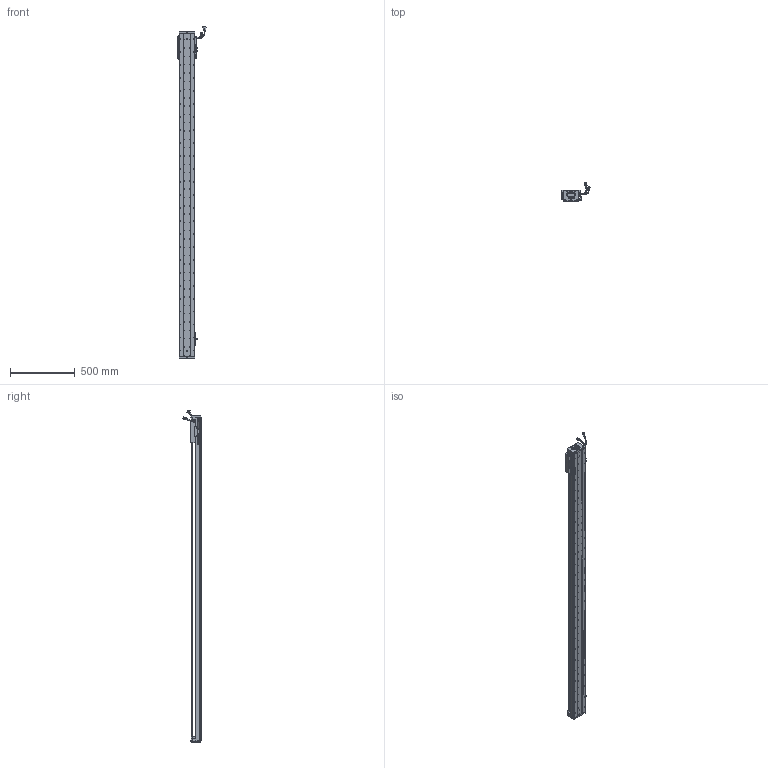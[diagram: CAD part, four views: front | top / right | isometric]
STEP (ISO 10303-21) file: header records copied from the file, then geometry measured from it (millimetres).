
FILE_DESCRIPTION (( 'STEP AP203' ), '1' );
FILE_NAME ('Z2-RY120D-1-L500-B-K.SLDASM_2250.step', '2021-05-17T05:38:24', ( '盈信电脑' ), ( '东莞市道滘镇水果街19号' ), 'SwSTEP 2.0', 'SolidWorks 2016', '' );
FILE_SCHEMA (( 'CONFIG_CONTROL_DESIGN' ));
Length unit declared in the file: millimetre
Products named in the file (37): SHIELDPLATE; RY100FB-遵嫖萇覜茼え; PBU_SHEET; 140蚥薯蝶輸; Z-120詩湍傷裔啣; COVER; Z2-RY120-L500詩湍100mm遵_2250; SCREW-M1.6-3; LABEL-Part-1; SCALE; Z2-RY120-500-倰第菁釱_2250; SCREW-M1.6; 120-Z-臏賑輸盄裔(21遴); SCALE-Part-1; SEAL-Part-1; SCREW-M1.7; HARNESS; SCREW-M1.7-1; 080黍杅芛假蚾釱21遴; 榋妏寠巭燃_暯_M2_2; HARNESS-Part-2; LABEL; COVER-Part-1; 672嫖萇羲壽假蚾釱; SEAL; SCALE-Part-2; Z-RY120D詩湍奻揤裔; Z2-RY120铝滑块（21款）; HOLDER0; SCREW-M1.6-1; Z-RY120D詩湍狟揤裔; 覜茼ん672; Z2-RY120D-1-L500-B-K.SLDASM_2250; SCREW-M1.6-2; PSLH080_PSLF2; 140雄赽晤鎢ん堤盄; HARNESS-Part-1
Assembly tree (43 placements, depth 4):
  Z2-RY120D-1-L500-B-K.SLDASM_2250
    Z2-RY120-500-倰第菁釱_2250
    覜茼ん672  x3
    672嫖萇羲壽假蚾釱  x2
    Z2-RY120铝滑块（21款）
    PSLH080_PSLF2
      SCALE
        SCALE-Part-1
        SCALE-Part-2
      HARNESS
        HARNESS-Part-1
        HARNESS-Part-2
      LABEL
        LABEL-Part-1
      COVER
        COVER-Part-1
      SEAL
        SEAL-Part-1
      榋妏寠巭燃_暯_M2_2
      SHIELDPLATE
      SCREW-M1.7
      SCREW-M1.7-1
      PBU_SHEET
      SCREW-M1.6
      SCREW-M1.6-1
      SCREW-M1.6-2
      SCREW-M1.6-3
      HOLDER0
    080黍杅芛假蚾釱21遴
    120-Z-臏賑輸盄裔(21遴)
    140雄赽晤鎢ん堤盄
    140蚥薯蝶輸  x2
    RY100FB-遵嫖萇覜茼え
    Z-120詩湍傷裔啣  x2
    Z-RY120D詩湍奻揤裔  x2
    Z-RY120D詩湍狟揤裔  x2
    Z2-RY120-L500詩湍100mm遵_2250
Bounding box: 222.88 x 140.94 x 2558.99 mm (x, y, z)
Volume: 5886927.7 mm3; surface area: 2082152 mm2
Topology: 38 solids, 38 shells, 3613 faces, 10268 edges, 6482 vertices
Faces by surface type: cylinder 1882, plane 1239, cone 370, torus 69, bspline 53
Entity records: 120707 total; most frequent: CARTESIAN_POINT 36808, ORIENTED_EDGE 17320, DIRECTION 15908, EDGE_CURVE 8660, AXIS2_PLACEMENT_3D 5876, VERTEX_POINT 5602, VECTOR 4156, LINE 4156
